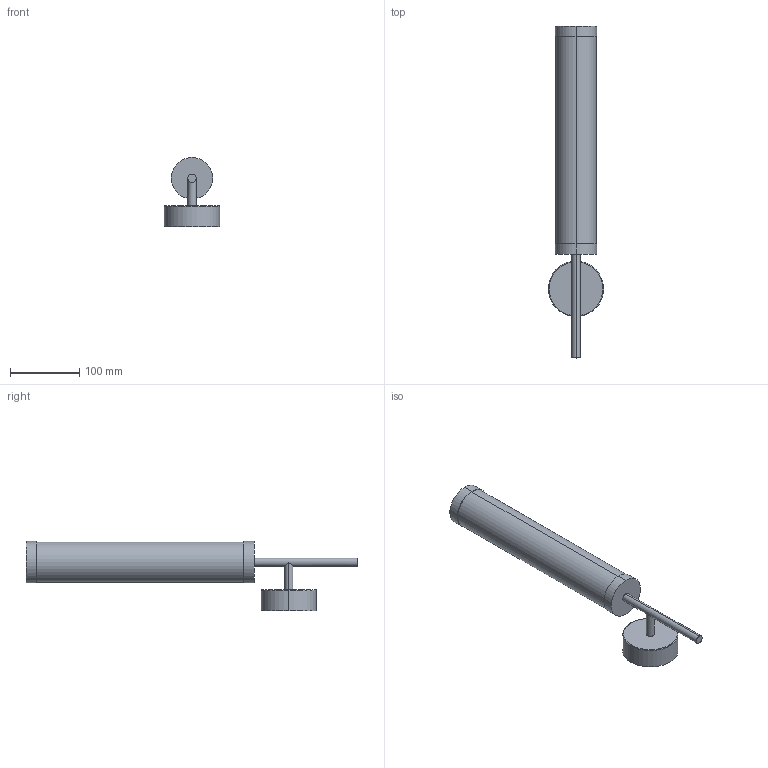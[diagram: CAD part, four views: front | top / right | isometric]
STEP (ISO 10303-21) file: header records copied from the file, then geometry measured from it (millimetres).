
FILE_DESCRIPTION (( 'STEP AP214' ), '1' );
FILE_NAME ('NUMU_A1343.STEP', '2025-08-26T08:00:44', ( '' ), ( '' ), 'SwSTEP 2.0', 'SolidWorks 2018', '' );
FILE_SCHEMA (( 'AUTOMOTIVE_DESIGN' ));
Length unit declared in the file: millimetre
Products named in the file (1): NUMU_A1343
Bounding box: 80 x 480 x 100 mm (x, y, z)
Volume: 1049102.1 mm3; surface area: 101385 mm2
Topology: 4 solids, 4 shells, 24 faces, 43 edges, 28 vertices
Faces by surface type: cylinder 12, plane 10, torus 2
Entity records: 922 total; most frequent: DIRECTION 115, CARTESIAN_POINT 108, ORIENTED_EDGE 86, AXIS2_PLACEMENT_3D 51, EDGE_CURVE 43, UNCERTAINTY_MEASURE_WITH_UNIT 30, FILL_AREA_STYLE_COLOUR 29, SURFACE_STYLE_USAGE 29
